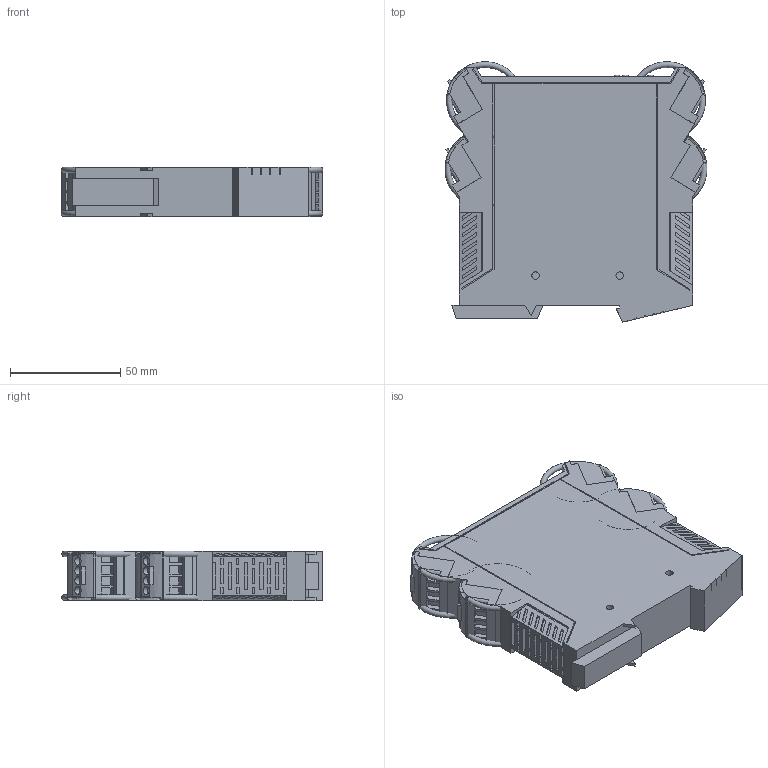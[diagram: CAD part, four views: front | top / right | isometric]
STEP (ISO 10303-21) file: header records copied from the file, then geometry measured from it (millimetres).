
FILE_DESCRIPTION((''),'2;1');
FILE_NAME('440R-EM4R2_NEW_ASM','2011-09-28T',('Administrator'),(''),'PRO/ENGINEER BY PARAMETRIC TECHNOLOGY CORPORATION, 2006010','PRO/ENGINEER BY PARAMETRIC TECHNOLOGY CORPORATION, 2006010','');
FILE_SCHEMA(('CONFIG_CONTROL_DESIGN'));
Length unit declared in the file: inch
Products named in the file (3): 440R_EM4R2; PLUG; 440R-EM4R2_NEW_ASM
Assembly tree (5 placements, depth 2):
  440R-EM4R2_NEW_ASM
    440R_EM4R2
    PLUG  x4
Bounding box: 118.55 x 117.86 x 22.5 mm (x, y, z)
Surface area: 51057.9 mm2 (no closed solid volume)
Topology: 0 solids, 0 shells, 749 faces, 5650 edges, 7454 vertices
Faces by surface type: bspline 733, torus 8, sphere 8
Entity records: 43455 total; most frequent: CARTESIAN_POINT 10020, DIRECTION 5820, TRIMMED_CURVE 5658, VECTOR 5528, LINE 5528, DEFINITIONAL_REPRESENTATION 2878, PCURVE 2878, COMPOSITE_CURVE_SEGMENT 2878
